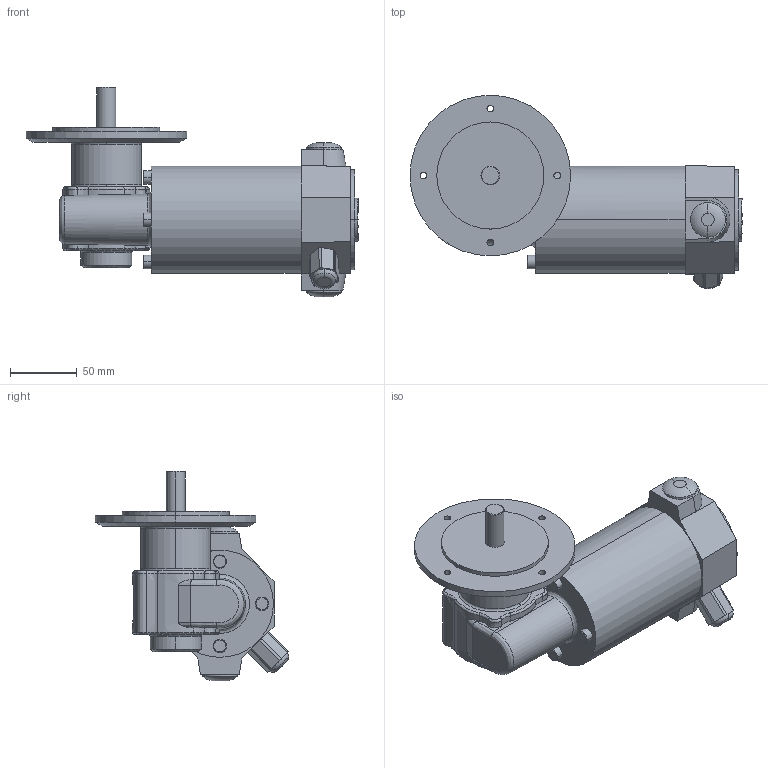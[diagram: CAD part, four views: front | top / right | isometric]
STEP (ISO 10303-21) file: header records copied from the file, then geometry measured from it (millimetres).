
FILE_DESCRIPTION(('OneSpaceDesigner STEP Export'),'2;1');
FILE_NAME('EPG12_GF130.stp','2008-07-10T 7:18:32',(''),(''),'OneSpace Designer STEP processor (Jan. 2003) for AP214(CD)(Solid Model)','OneSpace Designer 12.01D 09-Jul-2004 (C) CoCreate Software GmbH','');
FILE_SCHEMA(('AUTOMOTIVE_DESIGN_CC2 {1 2 10303 214 -1 1 5 1}'));
Length unit declared in the file: millimetre
Products named in the file (2): EPG12_GF130
Assembly tree (1 placements, depth 2):
  EPG12_GF130
    EPG12_GF130
Bounding box: 248 x 144.4 x 156.5 mm (x, y, z)
Volume: 1228790.5 mm3; surface area: 101773.3 mm2
Topology: 1 solids, 1 shells, 185 faces, 465 edges, 297 vertices
Faces by surface type: plane 49, cylinder 44, bspline 41, extrusion 25, torus 14, cone 12
Entity records: 15878 total; most frequent: CARTESIAN_POINT 12168, ORIENTED_EDGE 930, DIRECTION 490, EDGE_CURVE 465, VERTEX_POINT 297, EDGE_LOOP 208, FACE_OUTER_BOUND 185, ADVANCED_FACE 185
